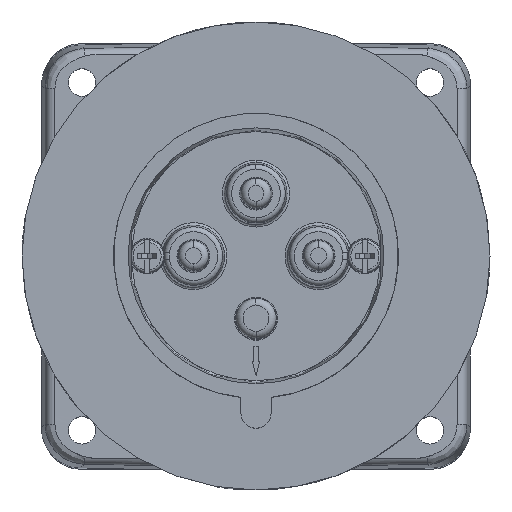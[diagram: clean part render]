
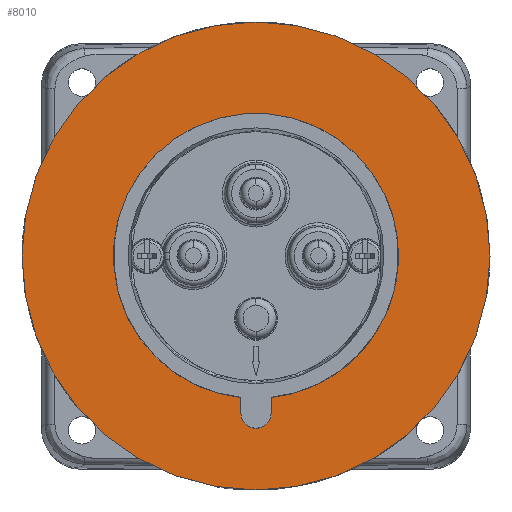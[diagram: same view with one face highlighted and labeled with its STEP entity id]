
A CAD part, top view. The second image highlights one B-rep face of the part: STEP entity #8010.
In plain terms, the highlighted planar face has unit normal (0, 0, 1).
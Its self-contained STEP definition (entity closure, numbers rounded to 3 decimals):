
#391=CARTESIAN_POINT('',(0.,0.,15.2));
#392=DIRECTION('',(0.,0.,1.));
#393=DIRECTION('',(0.067,-0.998,0.));
#394=AXIS2_PLACEMENT_3D('',#391,#392,#393);
#420=CARTESIAN_POINT('',(0.,0.,15.2));
#421=DIRECTION('',(0.,0.,1.));
#422=DIRECTION('',(-0.96,-0.281,0.));
#423=AXIS2_PLACEMENT_3D('',#420,#421,#422);
#450=CARTESIAN_POINT('',(0.,0.,15.2));
#451=DIRECTION('',(0.,0.,1.));
#452=DIRECTION('',(0.927,0.376,0.));
#453=AXIS2_PLACEMENT_3D('',#450,#451,#452);
#494=CARTESIAN_POINT('',(0.,0.,15.2));
#495=DIRECTION('',(0.,0.,1.));
#496=DIRECTION('',(1.,0.,0.));
#497=AXIS2_PLACEMENT_3D('',#494,#495,#496);
#863=CARTESIAN_POINT('',(0.,0.,15.2));
#864=DIRECTION('',(0.,0.,-1.));
#865=DIRECTION('',(1.,0.,0.));
#866=AXIS2_PLACEMENT_3D('',#863,#864,#865);
#4148=DIRECTION('',(1.,0.,0.));
#4149=VECTOR('',#4148,0.54);
#4150=CARTESIAN_POINT('',(25.821,-10.7,15.2));
#4151=LINE('1053',#4150,#4149);
#4180=CARTESIAN_POINT('',(0.,0.,15.2));
#4181=DIRECTION('',(0.,0.,1.));
#4182=DIRECTION('',(0.924,-0.383,0.));
#4183=AXIS2_PLACEMENT_3D('',#4180,#4181,#4182);
#4278=DIRECTION('',(1.,0.,0.));
#4279=VECTOR('',#4278,0.54);
#4280=CARTESIAN_POINT('',(25.821,10.7,15.2));
#4281=LINE('1052',#4280,#4279);
#4292=DIRECTION('',(-1.,0.,0.));
#4293=VECTOR('',#4292,0.521);
#4294=CARTESIAN_POINT('',(-26.781,8.,15.2));
#4295=LINE('1049',#4294,#4293);
#4325=CARTESIAN_POINT('',(0.,0.,15.2));
#4326=DIRECTION('',(0.,0.,1.));
#4327=DIRECTION('',(-0.958,0.286,0.));
#4328=AXIS2_PLACEMENT_3D('',#4325,#4326,#4327);
#4426=DIRECTION('',(-1.,0.,0.));
#4427=VECTOR('',#4426,0.521);
#4428=CARTESIAN_POINT('',(-26.781,-8.,15.2));
#4429=LINE('1050',#4428,#4427);
#4440=CARTESIAN_POINT('',(0.,0.,15.2));
#4441=DIRECTION('',(0.,0.,1.));
#4442=DIRECTION('',(-0.067,-0.998,0.));
#4443=AXIS2_PLACEMENT_3D('',#4440,#4441,#4442);
#7598=CARTESIAN_POINT('',(46.75,0.,15.2));
#7600=VERTEX_POINT('',#7598);
#7602=CARTESIAN_POINT('',(-46.75,0.,15.2));
#7604=VERTEX_POINT('',#7602);
#7796=CARTESIAN_POINT('',(1.9,-28.386,15.2));
#7797=CARTESIAN_POINT('',(26.361,-10.7,15.2));
#7798=VERTEX_POINT('',#7796);
#7799=VERTEX_POINT('',#7797);
#7800=CARTESIAN_POINT('',(26.361,10.7,15.2));
#7801=CARTESIAN_POINT('',(-27.302,8.,15.2));
#7802=VERTEX_POINT('',#7800);
#7803=VERTEX_POINT('',#7801);
#7804=CARTESIAN_POINT('',(-27.302,-8.,15.2));
#7805=CARTESIAN_POINT('',(-1.9,-28.386,15.2));
#7806=VERTEX_POINT('',#7804);
#7807=VERTEX_POINT('',#7805);
#7808=CARTESIAN_POINT('',(-26.781,8.,15.2));
#7809=VERTEX_POINT('',#7808);
#7810=CARTESIAN_POINT('',(-26.781,-8.,15.2));
#7811=VERTEX_POINT('',#7810);
#7812=CARTESIAN_POINT('',(25.821,10.7,15.2));
#7813=VERTEX_POINT('',#7812);
#7814=CARTESIAN_POINT('',(25.821,-10.7,15.2));
#7815=VERTEX_POINT('',#7814);
#7980=CARTESIAN_POINT('',(0.,0.,15.2));
#7981=DIRECTION('',(0.,0.,1.));
#7982=DIRECTION('',(-1.,0.,0.));
#7983=AXIS2_PLACEMENT_3D('',#7980,#7981,#7982);
#7984=PLANE('239',#7983);
#7986=ORIENTED_EDGE('867',*,*,#7985,.F.);
#7988=ORIENTED_EDGE('868',*,*,#7987,.T.);
#7989=EDGE_LOOP('239',(#7986,#7988));
#7990=FACE_OUTER_BOUND('239',#7989,.F.);
#7991=ORIENTED_EDGE('1045',*,*,#7929,.T.);
#7993=ORIENTED_EDGE('1053',*,*,#7992,.F.);
#7995=ORIENTED_EDGE('1054',*,*,#7994,.T.);
#7997=ORIENTED_EDGE('1052',*,*,#7996,.T.);
#7998=ORIENTED_EDGE('1046',*,*,#7953,.T.);
#8000=ORIENTED_EDGE('1049',*,*,#7999,.F.);
#8002=ORIENTED_EDGE('1051',*,*,#8001,.T.);
#8004=ORIENTED_EDGE('1050',*,*,#8003,.T.);
#8005=ORIENTED_EDGE('1047',*,*,#7941,.T.);
#8007=ORIENTED_EDGE('1048',*,*,#8006,.T.);
#8008=EDGE_LOOP('239',(#7991,#7993,#7995,#7997,#7998,#8000,#8002,#8004,#8005,
#8007));
#8009=FACE_BOUND('239',#8008,.F.);
#395=CIRCLE('1045',#394,28.45);
#424=CIRCLE('1047',#423,28.45);
#454=CIRCLE('1046',#453,28.45);
#498=CIRCLE('867',#497,46.75);
#867=CIRCLE('868',#866,46.75);
#4184=CIRCLE('1054',#4183,27.95);
#4329=CIRCLE('1051',#4328,27.95);
#4444=CIRCLE('1048',#4443,28.45);
#7929=EDGE_CURVE('1045',#7798,#7799,#395,.T.);
#7941=EDGE_CURVE('1047',#7806,#7807,#424,.T.);
#7953=EDGE_CURVE('1046',#7802,#7803,#454,.T.);
#7985=EDGE_CURVE('867',#7600,#7604,#498,.T.);
#7987=EDGE_CURVE('868',#7600,#7604,#867,.T.);
#7992=EDGE_CURVE('1053',#7815,#7799,#4151,.T.);
#7994=EDGE_CURVE('1054',#7815,#7813,#4184,.T.);
#7996=EDGE_CURVE('1052',#7813,#7802,#4281,.T.);
#7999=EDGE_CURVE('1049',#7809,#7803,#4295,.T.);
#8001=EDGE_CURVE('1051',#7809,#7811,#4329,.T.);
#8003=EDGE_CURVE('1050',#7811,#7806,#4429,.T.);
#8006=EDGE_CURVE('1048',#7807,#7798,#4444,.T.);
#8010=ADVANCED_FACE('239',(#7990,#8009),#7984,.T.);
